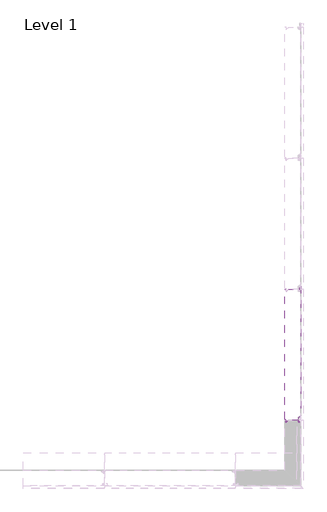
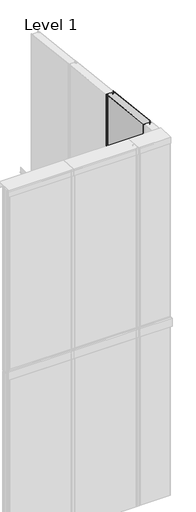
# One storey, part 6 of 12: 1 plate.
"""IFC4 building model written with IfcOpenShell, lengths in millimetres."""

from ifc_helpers import new_model, si_unit, frame, origin, place, context, project, spatial, polyline, circle_curve, ellipse_curve, element, save
from ifc_brep_helpers import plane_surface, cylinder_surface, revolved_surface, advanced_brep

model = new_model("IFC4")

# Units and contexts
model_context = context("Model", 3, world=origin())
ifc_project = project(units=[si_unit("LENGTHUNIT", "METRE", prefix="MILLI")], contexts=[model_context])

# Site, building, storey
site = spatial("IfcSite", under=ifc_project)
building = spatial("IfcBuilding", under=site)
storey = spatial("IfcBuildingStorey", under=building, Name="Level 1", Elevation=0.0)

# Plate
placement = place(None, origin())
element("IfcPlate", 1, ObjectType="TR_C_V_FHL_Panel : 120/RAL9006/RAL9002", at=placement, inside=storey, context=model_context, shape_type="AdvancedBrep", body=[
    advanced_brep(
    [(-3994.9155057, 5494.7075287, 3000.0), (-3995.5197088, 5496.0971008, 3000.0), (-3997.4653075, 5497.9114009, 3000.0), (-3999.3155057, 5497.1069118, 3000.0), (-3999.3155057, 5464.7801836, 3000.0), (-3999.4952944, 5463.7058087, 3000.0), (-4001.8344941, 5456.9122794, 3000.0), (-4011.3488891, 5458.0805002, 3000.0), (-4012.2128026, 5467.9550766, 3000.0), (-4013.9063336, 5469.5069118, 3000.0), (-4014.9155057, 5469.5069118, 3000.0), (-4014.9155057, 5470.3069118, 3000.0), (-4013.9063336, 5470.3069118, 3000.0), (-4011.4158468, 5468.0248012, 3000.0), (-4010.5519334, 5458.1502248, 3000.0), (-4002.5909089, 5457.1727339, 3000.0), (-4000.2517092, 5463.9662632, 3000.0), (-4000.1155057, 5464.7801836, 3000.0), (-4000.1155057, 5497.1069118, 3000.0), (-3996.9197088, 5498.4964839, 3000.0), (-3994.9741101, 5496.6821837, 3000.0), (-3994.1155057, 5494.7075287, 3000.0), (-3994.1155057, 4506.1698321, 3000.0), (-3994.9063173, 4504.2606438, 3000.0), (-3999.7297192, 4499.4372419, 3000.0), (-4000.3155057, 4498.0230283, 3000.0), (-4000.3155057, 4495.2069118, 3000.0), (-4003.0155057, 4492.5069118, 3000.0), (-4008.9155057, 4492.5069118, 3000.0), (-4010.9155057, 4490.5069118, 3000.0), (-4010.9155057, 4471.4069118, 3000.0), (-4009.8237435, 4458.9280134, 3000.0), (-4003.610261, 4458.1650937, 3000.0), (-4003.3006468, 4459.0642787, 3000.0), (-4002.544232, 4458.8038241, 3000.0), (-4002.8538462, 4457.9046392, 3000.0), (-4010.6206993, 4458.8582889, 3000.0), (-4011.7155057, 4471.3719831, 3000.0), (-4011.7155057, 4490.5069118, 3000.0), (-4008.9155057, 4493.3069118, 3000.0), (-4003.0155057, 4493.3069118, 3000.0), (-4001.1155057, 4495.2069118, 3000.0), (-4001.1155057, 4498.0230283, 3000.0), (-4000.2954046, 4500.0029273, 3000.0), (-3995.4720028, 4504.8263292, 3000.0), (-3994.9155057, 4506.1698321, 3000.0), (-3994.1155057, 5494.7075287, 5816.6162074), (-3994.1155057, 4506.1698321, 5931.5624512), (-3994.9155057, 4506.1698321, 5931.5624512), (-3994.9155057, 5494.7075287, 5816.6162074), (-3995.4720028, 4504.8263292, 5931.7186724), (-4000.2954046, 4500.0029273, 5932.2795331), (-4001.1155057, 4498.0230283, 5932.5097539), (-4001.1155057, 4495.2069118, 5932.8372093), (-4003.0155057, 4493.3069118, 5933.0581396), (-4008.9155057, 4493.3069118, 5933.0581396), (-4011.7155057, 4490.5069118, 5933.383721), (-4011.7155057, 4471.3719831, 5935.6087127), (-4010.6206993, 4458.8582889, 5937.0637934), (-4002.8538462, 4457.9046392, 5937.1746829), (-4002.544232, 4458.8038241, 5937.0701265), (-4003.3006468, 4459.0642787, 5937.0398411), (-4003.610261, 4458.1650937, 5937.1443975), (-4009.8237435, 4458.9280134, 5937.0556859), (-4010.9155057, 4471.4069118, 5935.6046512), (-4010.9155057, 4490.5069118, 5933.383721), (-4008.9155057, 4492.5069118, 5933.1511628), (-4003.0155057, 4492.5069118, 5933.1511628), (-4000.3155057, 4495.2069118, 5932.8372093), (-4000.3155057, 4498.0230283, 5932.5097539), (-3999.7297192, 4499.4372419, 5932.3453105), (-3994.9063173, 4504.2606438, 5931.7844498), (-3994.9741101, 5496.6821837, 5816.3865963), (-3996.9197088, 5498.4964839, 5816.1756312), (-4000.1155057, 5497.1069118, 5816.3372093), (-4000.1155057, 5464.7801836, 5820.0961312), (-4000.2517092, 5463.9662632, 5820.1907731), (-4002.5909089, 5457.1727339, 5820.9807184), (-4010.5519334, 5458.1502248, 5820.8670567), (-4011.4158468, 5468.0248012, 5819.7188501), (-4013.9063336, 5470.3069118, 5819.4534884), (-4014.9155057, 5470.3069118, 5819.4534884), (-4014.9155057, 5469.5069118, 5819.5465117), (-4013.9063336, 5469.5069118, 5819.5465117), (-4012.2128026, 5467.9550766, 5819.7269576), (-4011.3488891, 5458.0805002, 5820.8751642), (-4001.8344941, 5456.9122794, 5821.0110038), (-3999.4952944, 5463.7058087, 5820.2210585), (-3999.3155057, 5464.7801836, 5820.0961312), (-3999.3155057, 5497.1069118, 5816.3372093), (-3997.4653075, 5497.9114009, 5816.2436641), (-3995.5197088, 5496.0971008, 5816.4546292)],
    [
        (0, 1, circle_curve(frame((-3996.8155057, 5494.7075287, 3000.0), z_axis=(0.0, 0.0, 1.0), x_axis=(0.0, -1.0, 0.0)), 1.9)),
        (1, 2),
        (2, 3, circle_curve(frame((-3998.2155057, 5497.1069118, 3000.0), z_axis=(0.0, 0.0, 1.0), x_axis=(0.0, -1.0, 0.0)), 1.1)),
        (3, 4),
        (4, 5, circle_curve(frame((-4002.6155057, 5464.7801836, 3000.0), z_axis=(0.0, 0.0, -1.0), x_axis=(0.0, -1.0, 0.0)), 3.3)),
        (5, 6),
        (6, 7, circle_curve(frame((-4006.4675351, 5458.5075634, 3000.0), z_axis=(0.0, 0.0, -1.0), x_axis=(0.0, -1.0, 0.0)), 4.9)),
        (7, 8),
        (8, 9, circle_curve(frame((-4013.9063336, 5467.8069118, 3000.0), z_axis=(0.0, 0.0, 1.0), x_axis=(0.0, -1.0, 0.0)), 1.7)),
        (9, 10),
        (10, 11),
        (11, 12),
        (12, 13, circle_curve(frame((-4013.9063336, 5467.8069118, 3000.0), z_axis=(0.0, 0.0, -1.0), x_axis=(0.0, -1.0, 0.0)), 2.5)),
        (13, 14),
        (14, 15, circle_curve(frame((-4006.4675351, 5458.5075634, 3000.0), z_axis=(0.0, 0.0, 1.0), x_axis=(0.0, -1.0, 0.0)), 4.1)),
        (15, 16),
        (16, 17, circle_curve(frame((-4002.6155057, 5464.7801836, 3000.0), z_axis=(0.0, 0.0, 1.0), x_axis=(0.0, -1.0, 0.0)), 2.5)),
        (17, 18),
        (18, 19, circle_curve(frame((-3998.2155057, 5497.1069118, 3000.0), z_axis=(0.0, 0.0, -1.0), x_axis=(0.0, -1.0, 0.0)), 1.9)),
        (19, 20),
        (20, 21, circle_curve(frame((-3996.8155057, 5494.7075287, 3000.0), z_axis=(0.0, 0.0, -1.0), x_axis=(0.0, -1.0, 0.0)), 2.7)),
        (21, 22),
        (22, 23, circle_curve(frame((-3996.8155057, 4506.1698321, 3000.0), z_axis=(0.0, 0.0, -1.0), x_axis=(0.0, -1.0, 0.0)), 2.7)),
        (23, 24),
        (24, 25, circle_curve(frame((-3998.3155057, 4498.0230283, 3000.0), z_axis=(0.0, 0.0, 1.0), x_axis=(0.0, -1.0, 0.0)), 2.0)),
        (25, 26),
        (26, 27, circle_curve(frame((-4003.0155057, 4495.2069118, 3000.0), z_axis=(0.0, 0.0, -1.0), x_axis=(0.0, -1.0, 0.0)), 2.7)),
        (27, 28),
        (28, 29, circle_curve(frame((-4008.9155057, 4490.5069118, 3000.0), z_axis=(0.0, 0.0, 1.0), x_axis=(0.0, -1.0, 0.0)), 2.0)),
        (29, 30),
        (30, 31),
        (31, 32, circle_curve(frame((-4006.6359205, 4459.2069118, 3000.0), z_axis=(0.0, 0.0, 1.0), x_axis=(0.0, -1.0, 0.0)), 3.2)),
        (32, 33),
        (33, 34),
        (34, 35),
        (35, 36, circle_curve(frame((-4006.6359205, 4459.2069118, 3000.0), z_axis=(0.0, 0.0, -1.0), x_axis=(0.0, -1.0, 0.0)), 4.0)),
        (36, 37),
        (37, 38),
        (38, 39, circle_curve(frame((-4008.9155057, 4490.5069118, 3000.0), z_axis=(0.0, 0.0, -1.0), x_axis=(0.0, -1.0, 0.0)), 2.8)),
        (39, 40),
        (40, 41, circle_curve(frame((-4003.0155057, 4495.2069118, 3000.0), z_axis=(0.0, 0.0, 1.0), x_axis=(0.0, -1.0, 0.0)), 1.9)),
        (41, 42),
        (42, 43, circle_curve(frame((-3998.3155057, 4498.0230283, 3000.0), z_axis=(0.0, 0.0, -1.0), x_axis=(0.0, -1.0, 0.0)), 2.8)),
        (43, 44),
        (44, 45, circle_curve(frame((-3996.8155057, 4506.1698321, 3000.0), z_axis=(0.0, 0.0, 1.0), x_axis=(0.0, -1.0, 0.0)), 1.9)),
        (45, 0),
        (21, 46),
        (46, 47),
        (47, 22),
        (45, 48),
        (48, 49),
        (49, 0),
        (44, 50),
        (50, 48, ellipse_curve(frame((-3996.8155057, 4506.1698321, 5931.5624512), z_axis=(0.0, 0.1155008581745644, 0.9933073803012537), x_axis=(0.0, 0.9933073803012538, -0.11550085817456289)), 1.9128017, 1.9)),
        (43, 51),
        (51, 50),
        (42, 52),
        (52, 51, ellipse_curve(frame((-3998.3155057, 4498.0230283, 5932.5097539), z_axis=(0.0, -0.1155008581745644, -0.9933073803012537), x_axis=(0.0, -0.9933073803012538, 0.11550085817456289)), 2.8188656, 2.8)),
        (41, 53),
        (53, 52),
        (40, 54),
        (54, 53, ellipse_curve(frame((-4003.0155057, 4495.2069118, 5932.8372093), z_axis=(0.0, 0.1155008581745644, 0.9933073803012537), x_axis=(0.0, 0.9933073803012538, -0.11550085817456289)), 1.9128017, 1.9)),
        (39, 55),
        (55, 54),
        (38, 56),
        (56, 55, ellipse_curve(frame((-4008.9155057, 4490.5069118, 5933.383721), z_axis=(0.0, -0.1155008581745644, -0.9933073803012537), x_axis=(0.0, -0.9933073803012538, 0.11550085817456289)), 2.8188656, 2.8)),
        (37, 57),
        (57, 56),
        (36, 58),
        (58, 57),
        (35, 59),
        (59, 58, ellipse_curve(frame((-4006.6359205, 4459.2069118, 5937.0232558), z_axis=(0.0, -0.1155008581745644, -0.9933073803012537), x_axis=(0.0, -0.9933073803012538, 0.11550085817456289)), 4.0269509, 4.0)),
        (34, 60),
        (60, 59),
        (33, 61),
        (61, 60),
        (32, 62),
        (62, 61),
        (31, 63),
        (63, 62, ellipse_curve(frame((-4006.6359205, 4459.2069118, 5937.0232558), z_axis=(0.0, 0.1155008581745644, 0.9933073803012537), x_axis=(0.0, 0.9933073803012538, -0.11550085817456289)), 3.2215607, 3.2)),
        (30, 64),
        (64, 63),
        (29, 65),
        (65, 64),
        (28, 66),
        (66, 65, ellipse_curve(frame((-4008.9155057, 4490.5069118, 5933.383721), z_axis=(0.0, 0.1155008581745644, 0.9933073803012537), x_axis=(0.0, 0.9933073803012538, -0.11550085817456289)), 2.0134754, 2.0)),
        (27, 67),
        (67, 66),
        (26, 68),
        (68, 67, ellipse_curve(frame((-4003.0155057, 4495.2069118, 5932.8372093), z_axis=(0.0, -0.1155008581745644, -0.9933073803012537), x_axis=(0.0, -0.9933073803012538, 0.11550085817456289)), 2.7181918, 2.7)),
        (25, 69),
        (69, 68),
        (24, 70),
        (70, 69, ellipse_curve(frame((-3998.3155057, 4498.0230283, 5932.5097539), z_axis=(0.0, 0.1155008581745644, 0.9933073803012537), x_axis=(0.0, 0.9933073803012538, -0.11550085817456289)), 2.0134754, 2.0)),
        (23, 71),
        (71, 70),
        (47, 71, ellipse_curve(frame((-3996.8155057, 4506.1698321, 5931.5624512), z_axis=(0.0, -0.1155008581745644, -0.9933073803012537), x_axis=(0.0, -0.9933073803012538, 0.11550085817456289)), 2.7181918, 2.7)),
        (20, 72),
        (72, 46, ellipse_curve(frame((-3996.8155057, 5494.7075287, 5816.6162074), z_axis=(0.0, -0.1155008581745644, -0.9933073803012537), x_axis=(0.0, -0.9933073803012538, 0.11550085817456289)), 2.7181918, 2.7)),
        (19, 73),
        (73, 72),
        (18, 74),
        (74, 73, ellipse_curve(frame((-3998.2155057, 5497.1069118, 5816.3372093), z_axis=(0.0, -0.1155008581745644, -0.9933073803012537), x_axis=(0.0, -0.9933073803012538, 0.11550085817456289)), 1.9128017, 1.9)),
        (17, 75),
        (75, 74),
        (16, 76),
        (76, 75, ellipse_curve(frame((-4002.6155057, 5464.7801836, 5820.0961312), z_axis=(0.0, 0.1155008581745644, 0.9933073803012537), x_axis=(0.0, 0.9933073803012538, -0.11550085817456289)), 2.5168443, 2.5)),
        (15, 77),
        (77, 76),
        (14, 78),
        (78, 77, ellipse_curve(frame((-4006.4675351, 5458.5075634, 5820.8255057), z_axis=(0.0, 0.1155008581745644, 0.9933073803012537), x_axis=(0.0, 0.9933073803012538, -0.11550085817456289)), 4.1276246, 4.1)),
        (13, 79),
        (79, 78),
        (12, 80),
        (80, 79, ellipse_curve(frame((-4013.9063336, 5467.8069118, 5819.7441861), z_axis=(0.0, -0.1155008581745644, -0.9933073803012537), x_axis=(0.0, -0.9933073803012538, 0.11550085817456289)), 2.5168443, 2.5)),
        (11, 81),
        (81, 80),
        (10, 82),
        (82, 81),
        (9, 83),
        (83, 82),
        (8, 84),
        (84, 83, ellipse_curve(frame((-4013.9063336, 5467.8069118, 5819.7441861), z_axis=(0.0, 0.1155008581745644, 0.9933073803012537), x_axis=(0.0, 0.9933073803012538, -0.11550085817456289)), 1.7114541, 1.7)),
        (7, 85),
        (85, 84),
        (6, 86),
        (86, 85, ellipse_curve(frame((-4006.4675351, 5458.5075634, 5820.8255057), z_axis=(0.0, -0.1155008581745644, -0.9933073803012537), x_axis=(0.0, -0.9933073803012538, 0.11550085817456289)), 4.9330148, 4.9)),
        (5, 87),
        (87, 86),
        (4, 88),
        (88, 87, ellipse_curve(frame((-4002.6155057, 5464.7801836, 5820.0961312), z_axis=(0.0, -0.1155008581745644, -0.9933073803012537), x_axis=(0.0, -0.9933073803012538, 0.11550085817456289)), 3.3222345, 3.3)),
        (3, 89),
        (89, 88),
        (2, 90),
        (90, 89, ellipse_curve(frame((-3998.2155057, 5497.1069118, 5816.3372093), z_axis=(0.0, 0.1155008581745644, 0.9933073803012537), x_axis=(0.0, 0.9933073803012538, -0.11550085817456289)), 1.1074115, 1.1)),
        (1, 91),
        (91, 90),
        (49, 91, ellipse_curve(frame((-3996.8155057, 5494.7075287, 5816.6162074), z_axis=(0.0, 0.1155008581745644, 0.9933073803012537), x_axis=(0.0, 0.9933073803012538, -0.11550085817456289)), 1.9128017, 1.9)),
    ],
    [
        plane_surface(frame((-3994.9155057, 4485.2850853, 3000.0), z_axis=(0.0, 0.0, -1.0), x_axis=(0.0, 1.0, 0.0))),
        plane_surface(frame((-3994.1155057, 4506.1698321, 5980.0), z_axis=(1.0, 0.0, 0.0), x_axis=(0.0, 0.0, -1.0))),
        plane_surface(frame((-3994.9155057, 5494.7075287, 5980.0), z_axis=(-1.0, 0.0, 0.0), x_axis=(0.0, 0.0, -1.0))),
        revolved_surface(polyline([(-3996.8155057, 4504.269832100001, 3000.0), (-3996.8155057, 4504.269832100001, 5931.783381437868)]), (-3996.8155057, 4506.1698321, 3000.0), (0.0, 0.0, -1.0)),
        plane_surface(frame((-3995.4720028, 4504.8263292, 5980.0), z_axis=(-0.7071067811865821, 0.7071067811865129, 0.0), x_axis=(0.0, 0.0, -1.0))),
        cylinder_surface(frame((-3998.3155057, 4498.0230283, 3000.0), z_axis=(0.0, 0.0, 1.0), x_axis=(0.0, -1.0, 0.0)), 2.8),
        plane_surface(frame((-4001.1155057, 4498.0230283, 5980.0), z_axis=(-1.0, 0.0, 0.0), x_axis=(0.0, 0.0, -1.0))),
        revolved_surface(polyline([(-4003.0155057, 4493.3069118, 3000.0), (-4003.0155057, 4493.3069118, 5933.0581396)]), (-4003.0155057, 4495.2069118, 3000.0), (0.0, 0.0, -1.0)),
        plane_surface(frame((-4003.0155057, 4493.3069118, 5980.0), z_axis=(0.0, 1.0, 0.0), x_axis=(0.0, 0.0, -1.0))),
        cylinder_surface(frame((-4008.9155057, 4490.5069118, 3000.0), z_axis=(0.0, 0.0, 1.0), x_axis=(0.0, -1.0, 0.0)), 2.8),
        plane_surface(frame((-4011.7155057, 4490.5069118, 5980.0), z_axis=(-1.0, 0.0, 0.0), x_axis=(0.0, 0.0, -1.0))),
        plane_surface(frame((-4011.7155057, 4471.3719831, 5980.0), z_axis=(-0.9961946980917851, -0.08715574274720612, 0.0), x_axis=(0.0, 0.0, -1.0))),
        cylinder_surface(frame((-4006.6359205, 4459.2069118, 3000.0), z_axis=(0.0, 0.0, 1.0), x_axis=(0.0, -1.0, 0.0)), 4.0),
        plane_surface(frame((-4002.8538462, 4457.9046392, 5980.0), z_axis=(0.9455185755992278, -0.32556815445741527, 0.0), x_axis=(0.0, 0.0, -1.0))),
        plane_surface(frame((-4002.544232, 4458.8038241, 5980.0), z_axis=(0.325568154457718, 0.9455185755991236, 0.0), x_axis=(0.0, 0.0, -1.0))),
        plane_surface(frame((-4003.3006468, 4459.0642787, 5980.0), z_axis=(-0.9455185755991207, 0.32556815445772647, 0.0), x_axis=(0.0, 0.0, -1.0))),
        revolved_surface(polyline([(-4006.6359205, 4456.0069118, 3000.0), (-4006.6359205, 4456.0069118, 5937.395348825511)]), (-4006.6359205, 4459.2069118, 3000.0), (0.0, 0.0, -1.0)),
        plane_surface(frame((-4009.8237435, 4458.9280134, 5980.0), z_axis=(0.9961946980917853, 0.08715574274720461, 0.0), x_axis=(0.0, 0.0, -1.0))),
        plane_surface(frame((-4010.9155057, 4471.4069118, 5980.0), z_axis=(1.0, 0.0, 0.0), x_axis=(0.0, 0.0, -1.0))),
        revolved_surface(polyline([(-4008.9155057, 4488.5069118, 3000.0), (-4008.9155057, 4488.5069118, 5933.616279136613)]), (-4008.9155057, 4490.5069118, 3000.0), (0.0, 0.0, -1.0)),
        plane_surface(frame((-4008.9155057, 4492.5069118, 5980.0), z_axis=(0.0, -1.0, 0.0), x_axis=(0.0, 0.0, -1.0))),
        cylinder_surface(frame((-4003.0155057, 4495.2069118, 3000.0), z_axis=(0.0, 0.0, 1.0), x_axis=(0.0, -1.0, 0.0)), 2.7),
        plane_surface(frame((-4000.3155057, 4495.2069118, 5980.0), z_axis=(1.0, 0.0, 0.0), x_axis=(0.0, 0.0, -1.0))),
        revolved_surface(polyline([(-3998.3155057, 4496.0230283, 3000.0), (-3998.3155057, 4496.0230283, 5932.742312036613)]), (-3998.3155057, 4498.0230283, 3000.0), (0.0, 0.0, -1.0)),
        plane_surface(frame((-3999.7297192, 4499.4372419, 5980.0), z_axis=(0.7071067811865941, -0.707106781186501, 0.0), x_axis=(0.0, 0.0, -1.0))),
        cylinder_surface(frame((-3996.8155057, 4506.1698321, 3000.0), z_axis=(0.0, 0.0, 1.0), x_axis=(0.0, -1.0, 0.0)), 2.7),
        cylinder_surface(frame((-3996.8155057, 5494.7075287, 3000.0), z_axis=(0.0, 0.0, 1.0), x_axis=(0.0, -1.0, 0.0)), 2.7),
        plane_surface(frame((-3994.9741101, 5496.6821837, 5980.0), z_axis=(0.6819983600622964, 0.7313537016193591, 0.0), x_axis=(0.0, 0.0, -1.0))),
        cylinder_surface(frame((-3998.2155057, 5497.1069118, 3000.0), z_axis=(0.0, 0.0, 1.0), x_axis=(0.0, -1.0, 0.0)), 1.9),
        plane_surface(frame((-4000.1155057, 5497.1069118, 5980.0), z_axis=(-1.0, 0.0, 0.0), x_axis=(0.0, 0.0, -1.0))),
        revolved_surface(polyline([(-4002.6155057, 5462.2801836, 3000.0), (-4002.6155057, 5462.2801836, 5820.386828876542)]), (-4002.6155057, 5464.7801836, 3000.0), (0.0, 0.0, -1.0)),
        plane_surface(frame((-4000.2517092, 5463.9662632, 5980.0), z_axis=(-0.9455185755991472, 0.3255681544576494, 0.0), x_axis=(0.0, 0.0, -1.0))),
        revolved_surface(polyline([(-4006.4675351, 5454.4075634, 3000.0), (-4006.4675351, 5454.4075634, 5821.302249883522)]), (-4006.4675351, 5458.5075634, 3000.0), (0.0, 0.0, -1.0)),
        plane_surface(frame((-4010.5519334, 5458.1502248, 5980.0), z_axis=(0.9961946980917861, 0.08715574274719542, 0.0), x_axis=(0.0, 0.0, -1.0))),
        cylinder_surface(frame((-4013.9063336, 5467.8069118, 3000.0), z_axis=(0.0, 0.0, 1.0), x_axis=(0.0, -1.0, 0.0)), 2.5),
        plane_surface(frame((-4013.9063336, 5470.3069118, 5980.0), z_axis=(0.0, 1.0, 0.0), x_axis=(0.0, 0.0, -1.0))),
        plane_surface(frame((-4014.9155057, 5470.3069118, 5980.0), z_axis=(-1.0, 0.0, 0.0), x_axis=(0.0, 0.0, -1.0))),
        plane_surface(frame((-4014.9155057, 5469.5069118, 5980.0), z_axis=(0.0, -1.0, 0.0), x_axis=(0.0, 0.0, -1.0))),
        revolved_surface(polyline([(-4013.9063336, 5466.1069118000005, 3000.0), (-4013.9063336, 5466.1069118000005, 5819.941860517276)]), (-4013.9063336, 5467.8069118, 3000.0), (0.0, 0.0, -1.0)),
        plane_surface(frame((-4012.2128026, 5467.9550766, 5980.0), z_axis=(-0.9961946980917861, -0.08715574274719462, 0.0), x_axis=(0.0, 0.0, -1.0))),
        cylinder_surface(frame((-4006.4675351, 5458.5075634, 3000.0), z_axis=(0.0, 0.0, 1.0), x_axis=(0.0, -1.0, 0.0)), 4.9),
        plane_surface(frame((-4001.8344941, 5456.9122794, 5980.0), z_axis=(0.9455185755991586, -0.3255681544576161, 0.0), x_axis=(0.0, 0.0, -1.0))),
        cylinder_surface(frame((-4002.6155057, 5464.7801836, 3000.0), z_axis=(0.0, 0.0, 1.0), x_axis=(0.0, -1.0, 0.0)), 3.3),
        plane_surface(frame((-3999.3155057, 5464.7801836, 5980.0), z_axis=(1.0, 0.0, 0.0), x_axis=(0.0, 0.0, -1.0))),
        revolved_surface(polyline([(-3998.2155057, 5496.006911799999, 3000.0), (-3998.2155057, 5496.006911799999, 5816.465116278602)]), (-3998.2155057, 5497.1069118, 3000.0), (0.0, 0.0, -1.0)),
        plane_surface(frame((-3997.4653075, 5497.9114009, 5980.0), z_axis=(-0.6819983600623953, -0.7313537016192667, 0.0), x_axis=(0.0, 0.0, -1.0))),
        revolved_surface(polyline([(-3996.8155057, 5492.8075287, 3000.0), (-3996.8155057, 5492.8075287, 5816.837137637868)]), (-3996.8155057, 5494.7075287, 3000.0), (0.0, 0.0, -1.0)),
        plane_surface(frame((-3994.1155057, 6239.6069121, 5730.0), z_axis=(0.0, 0.1155008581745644, 0.9933073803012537), x_axis=(0.0, -0.9933073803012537, 0.1155008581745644))),
    ],
    [
        (0, [[1, 2, 3, 4, 5, 6, 7, 8, 9, 10, 11, 12, 13, 14, 15, 16, 17, 18, 19, 20, 21, 22, 23, 24, 25, 26, 27, 28, 29, 30, 31, 32, 33, 34, 35, 36, 37, 38, 39, 40, 41, 42, 43, 44, 45, 46]]),
        (1, [[-22, 47, 48, 49]]),
        (2, [[-46, 50, 51, 52]]),
        (3, [[-45, 53, 54, -50]]),
        (4, [[-44, 55, 56, -53]]),
        (5, [[-43, 57, 58, -55]]),
        (6, [[-42, 59, 60, -57]]),
        (7, [[-41, 61, 62, -59]]),
        (8, [[-40, 63, 64, -61]]),
        (9, [[-39, 65, 66, -63]]),
        (10, [[-38, 67, 68, -65]]),
        (11, [[-37, 69, 70, -67]]),
        (12, [[-36, 71, 72, -69]]),
        (13, [[-35, 73, 74, -71]]),
        (14, [[-34, 75, 76, -73]]),
        (15, [[-33, 77, 78, -75]]),
        (16, [[-32, 79, 80, -77]]),
        (17, [[-31, 81, 82, -79]]),
        (18, [[-30, 83, 84, -81]]),
        (19, [[-29, 85, 86, -83]]),
        (20, [[-28, 87, 88, -85]]),
        (21, [[-27, 89, 90, -87]]),
        (22, [[-26, 91, 92, -89]]),
        (23, [[-25, 93, 94, -91]]),
        (24, [[-24, 95, 96, -93]]),
        (25, [[-23, -49, 97, -95]]),
        (26, [[-21, 98, 99, -47]]),
        (27, [[-20, 100, 101, -98]]),
        (28, [[-19, 102, 103, -100]]),
        (29, [[-18, 104, 105, -102]]),
        (30, [[-17, 106, 107, -104]]),
        (31, [[-16, 108, 109, -106]]),
        (32, [[-15, 110, 111, -108]]),
        (33, [[-14, 112, 113, -110]]),
        (34, [[-13, 114, 115, -112]]),
        (35, [[-12, 116, 117, -114]]),
        (36, [[-11, 118, 119, -116]]),
        (37, [[-10, 120, 121, -118]]),
        (38, [[-9, 122, 123, -120]]),
        (39, [[-8, 124, 125, -122]]),
        (40, [[-7, 126, 127, -124]]),
        (41, [[-6, 128, 129, -126]]),
        (42, [[-5, 130, 131, -128]]),
        (43, [[-4, 132, 133, -130]]),
        (44, [[-3, 134, 135, -132]]),
        (45, [[-2, 136, 137, -134]]),
        (46, [[-1, -52, 138, -136]]),
        (47, [[-48, -99, -101, -103, -105, -107, -109, -111, -113, -115, -117, -119, -121, -123, -125, -127, -129, -131, -133, -135, -137, -138, -51, -54, -56, -58, -60, -62, -64, -66, -68, -70, -72, -74, -76, -78, -80, -82, -84, -86, -88, -90, -92, -94, -96, -97]]),
    ],
),
    advanced_brep(
    [(-4113.3155057, 5449.7069118, 3000.0), (-4104.6655057, 5449.7069118, 3000.0), (-4100.4800727, 5453.2189071, 3000.0), (-4099.4132474, 5459.2691739, 3000.0), (-4096.5080645, 5461.7069118, 3000.0), (-4088.9755057, 5461.7069118, 3000.0), (-4088.9755057, 5469.6069118, 3000.0), (-4014.9155057, 5469.6069118, 3000.0), (-4013.9063336, 5469.5069118, 3000.0), (-4012.2128026, 5467.9550766, 3000.0), (-4011.3488891, 5458.0805002, 3000.0), (-4006.4675351, 5453.6075634, 3000.0), (-3994.9155057, 5453.6075634, 3000.0), (-3994.9155057, 4506.1698321, 3000.0), (-3995.4720028, 4504.8263292, 3000.0), (-4000.2954046, 4500.0029273, 3000.0), (-4001.1155057, 4498.0230283, 3000.0), (-4001.1155057, 4495.2069118, 3000.0), (-4003.0155057, 4493.3069118, 3000.0), (-4008.9155057, 4493.3069118, 3000.0), (-4011.7155057, 4490.5069118, 3000.0), (-4011.7155057, 4471.3719831, 3000.0), (-4011.5610819, 4469.6069118, 3000.0), (-4107.3155057, 4469.6069118, 3000.0), (-4107.3155057, 4471.5069118, 3000.0), (-4108.2820533, 4473.8403642, 3000.0), (-4112.6711406, 4478.2294515, 3000.0), (-4113.3155057, 4479.7850864, 3000.0), (-4113.3155057, 4479.7850864, 5934.6304449), (-4113.3155057, 5449.7069118, 5821.8488372), (-4112.6711406, 4478.2294515, 5934.8113326), (-4108.2820533, 4473.8403642, 5935.3216916), (-4107.3155057, 4471.5069118, 5935.5930233), (-4107.3155057, 4469.6069118, 5935.8139535), (-4011.5610819, 4469.6069118, 5935.8139535), (-4011.7155057, 4471.3719831, 5935.6087127), (-4011.7155057, 4490.5069118, 5933.383721), (-4008.9155057, 4493.3069118, 5933.0581396), (-4003.0155057, 4493.3069118, 5933.0581396), (-4001.1155057, 4495.2069118, 5932.8372093), (-4001.1155057, 4498.0230283, 5932.5097539), (-4000.2954046, 4500.0029273, 5932.2795331), (-3995.4720028, 4504.8263292, 5931.7186724), (-3994.9155057, 4506.1698321, 5931.5624512), (-3994.9155057, 5453.6075634, 5821.3952731), (-4006.4675351, 5453.6075634, 5821.3952731), (-4011.3488891, 5458.0805002, 5820.8751642), (-4012.2128026, 5467.9550766, 5819.7269576), (-4013.9063336, 5469.5069118, 5819.5465117), (-4014.9155057, 5469.6069118, 5819.5348838), (-4088.9755057, 5469.6069118, 5819.5348838), (-4088.9755057, 5461.7069118, 5820.4534884), (-4096.5080645, 5461.7069118, 5820.4534884), (-4099.4132474, 5459.2691739, 5820.7369463), (-4100.4800727, 5453.2189071, 5821.4404657), (-4104.6655057, 5449.7069118, 5821.8488372)],
    [
        (0, 1),
        (1, 2, circle_curve(frame((-4104.6655057, 5453.9569118, 3000.0), z_axis=(0.0, 0.0, 1.0), x_axis=(0.0, -1.0, 0.0)), 4.25)),
        (2, 3),
        (3, 4, circle_curve(frame((-4096.5080645, 5458.7569118, 3000.0), z_axis=(0.0, 0.0, -1.0), x_axis=(0.0, -1.0, 0.0)), 2.95)),
        (4, 5),
        (5, 6),
        (6, 7),
        (7, 8),
        (8, 9, circle_curve(frame((-4013.9063336, 5467.8069118, 3000.0), z_axis=(0.0, 0.0, -1.0), x_axis=(0.0, -1.0, 0.0)), 1.7)),
        (9, 10),
        (10, 11, circle_curve(frame((-4006.4675351, 5458.5075634, 3000.0), z_axis=(0.0, 0.0, 1.0), x_axis=(0.0, -1.0, 0.0)), 4.9)),
        (11, 12),
        (12, 13),
        (13, 14, circle_curve(frame((-3996.8155057, 4506.1698321, 3000.0), z_axis=(0.0, 0.0, -1.0), x_axis=(0.0, -1.0, 0.0)), 1.9)),
        (14, 15),
        (15, 16, circle_curve(frame((-3998.3155057, 4498.0230283, 3000.0), z_axis=(0.0, 0.0, 1.0), x_axis=(0.0, -1.0, 0.0)), 2.8)),
        (16, 17),
        (17, 18, circle_curve(frame((-4003.0155057, 4495.2069118, 3000.0), z_axis=(0.0, 0.0, -1.0), x_axis=(0.0, -1.0, 0.0)), 1.9)),
        (18, 19),
        (19, 20, circle_curve(frame((-4008.9155057, 4490.5069118, 3000.0), z_axis=(0.0, 0.0, 1.0), x_axis=(0.0, -1.0, 0.0)), 2.8)),
        (20, 21),
        (21, 22),
        (22, 23),
        (23, 24),
        (24, 25, circle_curve(frame((-4110.6155057, 4471.5069118, 3000.0), z_axis=(0.0, 0.0, 1.0), x_axis=(0.0, -1.0, 0.0)), 3.3)),
        (25, 26),
        (26, 27, circle_curve(frame((-4111.1155057, 4479.7850864, 3000.0), z_axis=(0.0, 0.0, -1.0), x_axis=(0.0, -1.0, 0.0)), 2.2)),
        (27, 0),
        (27, 28),
        (28, 29),
        (29, 0),
        (26, 30),
        (30, 28, ellipse_curve(frame((-4111.1155057, 4479.7850864, 5934.6304449), z_axis=(0.0, -0.1155008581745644, -0.9933073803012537), x_axis=(0.0, -0.9933073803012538, 0.11550085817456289)), 2.214823, 2.2)),
        (25, 31),
        (31, 30),
        (24, 32),
        (32, 31, ellipse_curve(frame((-4110.6155057, 4471.5069118, 5935.5930233), z_axis=(0.0, 0.1155008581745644, 0.9933073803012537), x_axis=(0.0, 0.9933073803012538, -0.11550085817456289)), 3.3222345, 3.3)),
        (23, 33),
        (33, 32),
        (22, 34),
        (34, 33),
        (21, 35),
        (35, 34),
        (20, 36),
        (36, 35),
        (19, 37),
        (37, 36, ellipse_curve(frame((-4008.9155057, 4490.5069118, 5933.383721), z_axis=(0.0, 0.1155008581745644, 0.9933073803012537), x_axis=(0.0, 0.9933073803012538, -0.11550085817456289)), 2.8188656, 2.8)),
        (18, 38),
        (38, 37),
        (17, 39),
        (39, 38, ellipse_curve(frame((-4003.0155057, 4495.2069118, 5932.8372093), z_axis=(0.0, -0.1155008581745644, -0.9933073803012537), x_axis=(0.0, -0.9933073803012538, 0.11550085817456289)), 1.9128017, 1.9)),
        (16, 40),
        (40, 39),
        (15, 41),
        (41, 40, ellipse_curve(frame((-3998.3155057, 4498.0230283, 5932.5097539), z_axis=(0.0, 0.1155008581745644, 0.9933073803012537), x_axis=(0.0, 0.9933073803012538, -0.11550085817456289)), 2.8188656, 2.8)),
        (14, 42),
        (42, 41),
        (13, 43),
        (43, 42, ellipse_curve(frame((-3996.8155057, 4506.1698321, 5931.5624512), z_axis=(0.0, -0.1155008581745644, -0.9933073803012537), x_axis=(0.0, -0.9933073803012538, 0.11550085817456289)), 1.9128017, 1.9)),
        (12, 44),
        (44, 43),
        (11, 45),
        (45, 44),
        (10, 46),
        (46, 45, ellipse_curve(frame((-4006.4675351, 5458.5075634, 5820.8255057), z_axis=(0.0, 0.1155008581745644, 0.9933073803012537), x_axis=(0.0, 0.9933073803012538, -0.11550085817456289)), 4.9330148, 4.9)),
        (9, 47),
        (47, 46),
        (8, 48),
        (48, 47, ellipse_curve(frame((-4013.9063336, 5467.8069118, 5819.7441861), z_axis=(0.0, -0.1155008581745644, -0.9933073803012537), x_axis=(0.0, -0.9933073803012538, 0.11550085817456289)), 1.7114541, 1.7)),
        (7, 49),
        (49, 48),
        (6, 50),
        (50, 49),
        (5, 51),
        (51, 50),
        (4, 52),
        (52, 51),
        (3, 53),
        (53, 52, ellipse_curve(frame((-4096.5080645, 5458.7569118, 5820.7965117), z_axis=(0.0, -0.1155008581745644, -0.9933073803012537), x_axis=(0.0, -0.9933073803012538, 0.11550085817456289)), 2.9698763, 2.95)),
        (2, 54),
        (54, 53),
        (1, 55),
        (55, 54, ellipse_curve(frame((-4104.6655057, 5453.9569118, 5821.3546512), z_axis=(0.0, 0.1155008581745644, 0.9933073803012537), x_axis=(0.0, 0.9933073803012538, -0.11550085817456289)), 4.2786353, 4.25)),
        (29, 55),
    ],
    [
        plane_surface(frame((-4113.3155057, 4479.7850864, 3000.0), z_axis=(0.0, 0.0, -1.0), x_axis=(0.0, 1.0, 0.0))),
        plane_surface(frame((-4113.3155057, 5449.7069118, 5980.0), z_axis=(-1.0, 0.0, 0.0), x_axis=(0.0, 0.0, -1.0))),
        cylinder_surface(frame((-4111.1155057, 4479.7850864, 3000.0), z_axis=(0.0, 0.0, 1.0), x_axis=(0.0, -1.0, 0.0)), 2.2),
        plane_surface(frame((-4112.6711406, 4478.2294515, 5980.0), z_axis=(-0.7071067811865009, -0.7071067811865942, 0.0), x_axis=(0.0, 0.0, -1.0))),
        revolved_surface(polyline([(-4110.6155057, 4468.2069118, 3000.0), (-4110.6155057, 4468.2069118, 5935.976744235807)]), (-4110.6155057, 4471.5069118, 3000.0), (0.0, 0.0, -1.0)),
        plane_surface(frame((-4107.3155057, 4471.5069118, 5980.0), z_axis=(-1.0, 0.0, 0.0), x_axis=(0.0, 0.0, -1.0))),
        plane_surface(frame((-4107.3155057, 4469.6069118, 5980.0), z_axis=(0.0, -1.0, 0.0), x_axis=(0.0, 0.0, -1.0))),
        plane_surface(frame((-4011.5610819, 4469.6069118, 5980.0), z_axis=(0.9961946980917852, 0.08715574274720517, 0.0), x_axis=(0.0, 0.0, -1.0))),
        plane_surface(frame((-4011.7155057, 4471.3719831, 5980.0), z_axis=(1.0, 0.0, 0.0), x_axis=(0.0, 0.0, -1.0))),
        revolved_surface(polyline([(-4008.9155057, 4487.7069118, 3000.0), (-4008.9155057, 4487.7069118, 5933.709302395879)]), (-4008.9155057, 4490.5069118, 3000.0), (0.0, 0.0, -1.0)),
        plane_surface(frame((-4008.9155057, 4493.3069118, 5980.0), z_axis=(0.0, -1.0, 0.0), x_axis=(0.0, 0.0, -1.0))),
        cylinder_surface(frame((-4003.0155057, 4495.2069118, 3000.0), z_axis=(0.0, 0.0, 1.0), x_axis=(0.0, -1.0, 0.0)), 1.9),
        plane_surface(frame((-4001.1155057, 4495.2069118, 5980.0), z_axis=(1.0, 0.0, 0.0), x_axis=(0.0, 0.0, -1.0))),
        revolved_surface(polyline([(-3998.3155057, 4495.2230283, 3000.0), (-3998.3155057, 4495.2230283, 5932.835335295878)]), (-3998.3155057, 4498.0230283, 3000.0), (0.0, 0.0, -1.0)),
        plane_surface(frame((-4000.2954046, 4500.0029273, 5980.0), z_axis=(0.707106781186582, -0.7071067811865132, 0.0), x_axis=(0.0, 0.0, -1.0))),
        cylinder_surface(frame((-3996.8155057, 4506.1698321, 3000.0), z_axis=(0.0, 0.0, 1.0), x_axis=(0.0, -1.0, 0.0)), 1.9),
        plane_surface(frame((-3994.9155057, 4506.1698321, 5980.0), z_axis=(1.0, 0.0, 0.0), x_axis=(0.0, 0.0, -1.0))),
        plane_surface(frame((-3994.9155057, 5453.6075634, 5980.0), z_axis=(0.0, 1.0, 0.0), x_axis=(0.0, 0.0, -1.0))),
        revolved_surface(polyline([(-4006.4675351, 5453.607563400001, 3000.0), (-4006.4675351, 5453.607563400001, 5821.395273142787)]), (-4006.4675351, 5458.5075634, 3000.0), (0.0, 0.0, -1.0)),
        plane_surface(frame((-4011.3488891, 5458.0805002, 5980.0), z_axis=(0.9961946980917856, 0.08715574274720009, 0.0), x_axis=(0.0, 0.0, -1.0))),
        cylinder_surface(frame((-4013.9063336, 5467.8069118, 3000.0), z_axis=(0.0, 0.0, 1.0), x_axis=(0.0, -1.0, 0.0)), 1.7),
        plane_surface(frame((-4013.9063336, 5469.5069118, 5980.0), z_axis=(0.0986081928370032, 0.9951263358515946, 0.0), x_axis=(0.0, 0.0, -1.0))),
        plane_surface(frame((-4014.9155057, 5469.6069118, 5980.0), z_axis=(0.0, 1.0, 0.0), x_axis=(0.0, 0.0, -1.0))),
        plane_surface(frame((-4088.9755057, 5469.6069118, 5980.0), z_axis=(-1.0, 0.0, 0.0), x_axis=(0.0, 0.0, -1.0))),
        plane_surface(frame((-4088.9755057, 5461.7069118, 5980.0), z_axis=(0.0, 1.0, 0.0), x_axis=(0.0, 0.0, -1.0))),
        cylinder_surface(frame((-4096.5080645, 5458.7569118, 3000.0), z_axis=(0.0, 0.0, 1.0), x_axis=(0.0, -1.0, 0.0)), 2.95),
        plane_surface(frame((-4099.4132474, 5459.2691739, 5980.0), z_axis=(-0.984807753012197, 0.1736481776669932, 0.0), x_axis=(0.0, 0.0, -1.0))),
        revolved_surface(polyline([(-4104.6655057, 5449.7069118, 3000.0), (-4104.6655057, 5449.7069118, 5821.848837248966)]), (-4104.6655057, 5453.9569118, 3000.0), (0.0, 0.0, -1.0)),
        plane_surface(frame((-4104.6655057, 5449.7069118, 5980.0), z_axis=(0.0, 1.0, 0.0), x_axis=(0.0, 0.0, -1.0))),
        plane_surface(frame((-3994.1155057, 6239.6069121, 5730.0), z_axis=(0.0, 0.1155008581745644, 0.9933073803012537), x_axis=(0.0, -0.9933073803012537, 0.1155008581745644))),
    ],
    [
        (0, [[1, 2, 3, 4, 5, 6, 7, 8, 9, 10, 11, 12, 13, 14, 15, 16, 17, 18, 19, 20, 21, 22, 23, 24, 25, 26, 27, 28]]),
        (1, [[-28, 29, 30, 31]]),
        (2, [[-27, 32, 33, -29]]),
        (3, [[-26, 34, 35, -32]]),
        (4, [[-25, 36, 37, -34]]),
        (5, [[-24, 38, 39, -36]]),
        (6, [[-23, 40, 41, -38]]),
        (7, [[-22, 42, 43, -40]]),
        (8, [[-21, 44, 45, -42]]),
        (9, [[-20, 46, 47, -44]]),
        (10, [[-19, 48, 49, -46]]),
        (11, [[-18, 50, 51, -48]]),
        (12, [[-17, 52, 53, -50]]),
        (13, [[-16, 54, 55, -52]]),
        (14, [[-15, 56, 57, -54]]),
        (15, [[-14, 58, 59, -56]]),
        (16, [[-13, 60, 61, -58]]),
        (17, [[-12, 62, 63, -60]]),
        (18, [[-11, 64, 65, -62]]),
        (19, [[-10, 66, 67, -64]]),
        (20, [[-9, 68, 69, -66]]),
        (21, [[-8, 70, 71, -68]]),
        (22, [[-7, 72, 73, -70]]),
        (23, [[-6, 74, 75, -72]]),
        (24, [[-5, 76, 77, -74]]),
        (25, [[-4, 78, 79, -76]]),
        (26, [[-3, 80, 81, -78]]),
        (27, [[-2, 82, 83, -80]]),
        (28, [[-1, -31, 84, -82]]),
        (29, [[-30, -33, -35, -37, -39, -41, -43, -45, -47, -49, -51, -53, -55, -57, -59, -61, -63, -65, -67, -69, -71, -73, -75, -77, -79, -81, -83, -84]]),
    ],
),
    advanced_brep(
    [(-4093.1155057, 5462.5069118, 3000.0), (-4093.1155057, 5461.7069118, 3000.0), (-4096.5080645, 5461.7069118, 3000.0), (-4099.4132474, 5459.2691739, 3000.0), (-4100.4800727, 5453.2189071, 3000.0), (-4108.9155057, 5453.9569118, 3000.0), (-4108.9155057, 5471.5569118, 3000.0), (-4110.8786785, 5472.3700846, 3000.0), (-4112.7443639, 5470.5043992, 3000.0), (-4113.3155057, 5469.125541, 3000.0), (-4113.3155057, 4479.7850864, 3000.0), (-4112.6711406, 4478.2294515, 3000.0), (-4108.2820533, 4473.8403642, 3000.0), (-4107.3155057, 4471.5069118, 3000.0), (-4107.3155057, 4456.7569118, 3000.0), (-4102.4527267, 4456.3314738, 3000.0), (-4101.7094137, 4460.547011, 3000.0), (-4097.2285384, 4464.3069118, 3000.0), (-4093.1155057, 4464.3069118, 3000.0), (-4093.1155057, 4463.5069118, 3000.0), (-4097.2285384, 4463.5069118, 3000.0), (-4100.9215675, 4460.4080925, 3000.0), (-4101.6648805, 4456.1925552, 3000.0), (-4108.1155057, 4456.7569118, 3000.0), (-4108.1155057, 4471.5069118, 3000.0), (-4108.8477387, 4473.2746788, 3000.0), (-4113.236826, 4477.6637661, 3000.0), (-4114.1155057, 4479.7850864, 3000.0), (-4114.1155057, 5469.125541, 3000.0), (-4113.3100493, 5471.0700846, 3000.0), (-4111.4443639, 5472.93577, 3000.0), (-4108.1155057, 5471.5569118, 3000.0), (-4108.1155057, 5453.9569118, 3000.0), (-4101.2679189, 5453.3578256, 3000.0), (-4100.2010936, 5459.4080925, 3000.0), (-4096.5080645, 5462.5069118, 3000.0), (-4096.5080645, 5462.5069118, 5820.3604652), (-4093.1155057, 5462.5069118, 5820.3604652), (-4100.2010936, 5459.4080925, 5820.720793), (-4101.2679189, 5453.3578256, 5821.4243124), (-4108.1155057, 5453.9569118, 5821.3546512), (-4108.1155057, 5471.5569118, 5819.3081396), (-4111.4443639, 5472.93577, 5819.1478072), (-4113.3100493, 5471.0700846, 5819.3647474), (-4114.1155057, 5469.125541, 5819.5908571), (-4114.1155057, 4479.7850864, 5934.6304449), (-4113.236826, 4477.6637661, 5934.87711), (-4108.8477387, 4473.2746788, 5935.387469), (-4108.1155057, 4471.5069118, 5935.5930233), (-4108.1155057, 4456.7569118, 5937.3081396), (-4101.6648805, 4456.1925552, 5937.3737624), (-4100.9215675, 4460.4080925, 5936.8835837), (-4097.2285384, 4463.5069118, 5936.5232558), (-4093.1155057, 4463.5069118, 5936.5232558), (-4093.1155057, 4464.3069118, 5936.4302326), (-4097.2285384, 4464.3069118, 5936.4302326), (-4101.7094137, 4460.547011, 5936.8674304), (-4102.4527267, 4456.3314738, 5937.3576091), (-4107.3155057, 4456.7569118, 5937.3081396), (-4107.3155057, 4471.5069118, 5935.5930233), (-4108.2820533, 4473.8403642, 5935.3216916), (-4112.6711406, 4478.2294515, 5934.8113326), (-4113.3155057, 4479.7850864, 5934.6304449), (-4113.3155057, 5469.125541, 5819.5908571), (-4112.7443639, 5470.5043992, 5819.4305248), (-4110.8786785, 5472.3700846, 5819.2135846), (-4108.9155057, 5471.5569118, 5819.3081396), (-4108.9155057, 5453.9569118, 5821.3546512), (-4100.4800727, 5453.2189071, 5821.4404657), (-4099.4132474, 5459.2691739, 5820.7369463), (-4096.5080645, 5461.7069118, 5820.4534884), (-4093.1155057, 5461.7069118, 5820.4534884)],
    [
        (0, 1),
        (1, 2),
        (2, 3, circle_curve(frame((-4096.5080645, 5458.7569118, 3000.0), z_axis=(0.0, 0.0, 1.0), x_axis=(0.0, -1.0, 0.0)), 2.95)),
        (3, 4),
        (4, 5, circle_curve(frame((-4104.6655057, 5453.9569118, 3000.0), z_axis=(0.0, 0.0, -1.0), x_axis=(0.0, -1.0, 0.0)), 4.25)),
        (5, 6),
        (6, 7, circle_curve(frame((-4110.0655057, 5471.5569118, 3000.0), z_axis=(0.0, 0.0, 1.0), x_axis=(0.0, -1.0, 0.0)), 1.15)),
        (7, 8),
        (8, 9, circle_curve(frame((-4111.3655057, 5469.125541, 3000.0), z_axis=(0.0, 0.0, 1.0), x_axis=(0.0, -1.0, 0.0)), 1.95)),
        (9, 10),
        (10, 11, circle_curve(frame((-4111.1155057, 4479.7850864, 3000.0), z_axis=(0.0, 0.0, 1.0), x_axis=(0.0, -1.0, 0.0)), 2.2)),
        (11, 12),
        (12, 13, circle_curve(frame((-4110.6155057, 4471.5069118, 3000.0), z_axis=(0.0, 0.0, -1.0), x_axis=(0.0, -1.0, 0.0)), 3.3)),
        (13, 14),
        (14, 15, circle_curve(frame((-4104.8655057, 4456.7569118, 3000.0), z_axis=(0.0, 0.0, 1.0), x_axis=(0.0, -1.0, 0.0)), 2.45)),
        (15, 16),
        (16, 17, circle_curve(frame((-4097.2285384, 4459.7569118, 3000.0), z_axis=(0.0, 0.0, -1.0), x_axis=(0.0, -1.0, 0.0)), 4.55)),
        (17, 18),
        (18, 19),
        (19, 20),
        (20, 21, circle_curve(frame((-4097.2285384, 4459.7569118, 3000.0), z_axis=(0.0, 0.0, 1.0), x_axis=(0.0, -1.0, 0.0)), 3.75)),
        (21, 22),
        (22, 23, circle_curve(frame((-4104.8655057, 4456.7569118, 3000.0), z_axis=(0.0, 0.0, -1.0), x_axis=(0.0, -1.0, 0.0)), 3.25)),
        (23, 24),
        (24, 25, circle_curve(frame((-4110.6155057, 4471.5069118, 3000.0), z_axis=(0.0, 0.0, 1.0), x_axis=(0.0, -1.0, 0.0)), 2.5)),
        (25, 26),
        (26, 27, circle_curve(frame((-4111.1155057, 4479.7850864, 3000.0), z_axis=(0.0, 0.0, -1.0), x_axis=(0.0, -1.0, 0.0)), 3.0)),
        (27, 28),
        (28, 29, circle_curve(frame((-4111.3655057, 5469.125541, 3000.0), z_axis=(0.0, 0.0, -1.0), x_axis=(0.0, -1.0, 0.0)), 2.75)),
        (29, 30),
        (30, 31, circle_curve(frame((-4110.0655057, 5471.5569118, 3000.0), z_axis=(0.0, 0.0, -1.0), x_axis=(0.0, -1.0, 0.0)), 1.95)),
        (31, 32),
        (32, 33, circle_curve(frame((-4104.6655057, 5453.9569118, 3000.0), z_axis=(0.0, 0.0, 1.0), x_axis=(0.0, -1.0, 0.0)), 3.45)),
        (33, 34),
        (34, 35, circle_curve(frame((-4096.5080645, 5458.7569118, 3000.0), z_axis=(0.0, 0.0, -1.0), x_axis=(0.0, -1.0, 0.0)), 3.75)),
        (35, 0),
        (35, 36),
        (36, 37),
        (37, 0),
        (34, 38),
        (38, 36, ellipse_curve(frame((-4096.5080645, 5458.7569118, 5820.7965117), z_axis=(0.0, -0.1155008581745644, -0.9933073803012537), x_axis=(0.0, -0.9933073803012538, 0.11550085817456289)), 3.7752664, 3.75)),
        (33, 39),
        (39, 38),
        (32, 40),
        (40, 39, ellipse_curve(frame((-4104.6655057, 5453.9569118, 5821.3546512), z_axis=(0.0, 0.1155008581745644, 0.9933073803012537), x_axis=(0.0, 0.9933073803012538, -0.11550085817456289)), 3.4732451, 3.45)),
        (31, 41),
        (41, 40),
        (30, 42),
        (42, 41, ellipse_curve(frame((-4110.0655057, 5471.5569118, 5819.3081396), z_axis=(0.0, -0.1155008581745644, -0.9933073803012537), x_axis=(0.0, -0.9933073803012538, 0.11550085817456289)), 1.9631385, 1.95)),
        (29, 43),
        (43, 42),
        (28, 44),
        (44, 43, ellipse_curve(frame((-4111.3655057, 5469.125541, 5819.5908571), z_axis=(0.0, -0.1155008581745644, -0.9933073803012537), x_axis=(0.0, -0.9933073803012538, 0.11550085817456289)), 2.7685287, 2.75)),
        (27, 45),
        (45, 44),
        (26, 46),
        (46, 45, ellipse_curve(frame((-4111.1155057, 4479.7850864, 5934.6304449), z_axis=(0.0, -0.1155008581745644, -0.9933073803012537), x_axis=(0.0, -0.9933073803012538, 0.11550085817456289)), 3.0202131, 3.0)),
        (25, 47),
        (47, 46),
        (24, 48),
        (48, 47, ellipse_curve(frame((-4110.6155057, 4471.5069118, 5935.5930233), z_axis=(0.0, 0.1155008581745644, 0.9933073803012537), x_axis=(0.0, 0.9933073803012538, -0.11550085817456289)), 2.5168443, 2.5)),
        (23, 49),
        (49, 48),
        (22, 50),
        (50, 49, ellipse_curve(frame((-4104.8655057, 4456.7569118, 5937.3081396), z_axis=(0.0, -0.1155008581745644, -0.9933073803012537), x_axis=(0.0, -0.9933073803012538, 0.11550085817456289)), 3.2718976, 3.25)),
        (21, 51),
        (51, 50),
        (20, 52),
        (52, 51, ellipse_curve(frame((-4097.2285384, 4459.7569118, 5936.9593024), z_axis=(0.0, 0.1155008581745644, 0.9933073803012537), x_axis=(0.0, 0.9933073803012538, -0.11550085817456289)), 3.7752664, 3.75)),
        (19, 53),
        (53, 52),
        (18, 54),
        (54, 53),
        (17, 55),
        (55, 54),
        (16, 56),
        (56, 55, ellipse_curve(frame((-4097.2285384, 4459.7569118, 5936.9593024), z_axis=(0.0, -0.1155008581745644, -0.9933073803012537), x_axis=(0.0, -0.9933073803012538, 0.11550085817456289)), 4.5806566, 4.55)),
        (15, 57),
        (57, 56),
        (14, 58),
        (58, 57, ellipse_curve(frame((-4104.8655057, 4456.7569118, 5937.3081396), z_axis=(0.0, 0.1155008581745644, 0.9933073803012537), x_axis=(0.0, 0.9933073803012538, -0.11550085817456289)), 2.4665074, 2.45)),
        (13, 59),
        (59, 58),
        (12, 60),
        (60, 59, ellipse_curve(frame((-4110.6155057, 4471.5069118, 5935.5930233), z_axis=(0.0, -0.1155008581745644, -0.9933073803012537), x_axis=(0.0, -0.9933073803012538, 0.11550085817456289)), 3.3222345, 3.3)),
        (11, 61),
        (61, 60),
        (10, 62),
        (62, 61, ellipse_curve(frame((-4111.1155057, 4479.7850864, 5934.6304449), z_axis=(0.0, 0.1155008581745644, 0.9933073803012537), x_axis=(0.0, 0.9933073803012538, -0.11550085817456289)), 2.214823, 2.2)),
        (9, 63),
        (63, 62),
        (8, 64),
        (64, 63, ellipse_curve(frame((-4111.3655057, 5469.125541, 5819.5908571), z_axis=(0.0, 0.1155008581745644, 0.9933073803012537), x_axis=(0.0, 0.9933073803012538, -0.11550085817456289)), 1.9631385, 1.95)),
        (7, 65),
        (65, 64),
        (6, 66),
        (66, 65, ellipse_curve(frame((-4110.0655057, 5471.5569118, 5819.3081396), z_axis=(0.0, 0.1155008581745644, 0.9933073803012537), x_axis=(0.0, 0.9933073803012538, -0.11550085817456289)), 1.1577484, 1.15)),
        (5, 67),
        (67, 66),
        (4, 68),
        (68, 67, ellipse_curve(frame((-4104.6655057, 5453.9569118, 5821.3546512), z_axis=(0.0, -0.1155008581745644, -0.9933073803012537), x_axis=(0.0, -0.9933073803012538, 0.11550085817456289)), 4.2786353, 4.25)),
        (3, 69),
        (69, 68),
        (2, 70),
        (70, 69, ellipse_curve(frame((-4096.5080645, 5458.7569118, 5820.7965117), z_axis=(0.0, 0.1155008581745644, 0.9933073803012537), x_axis=(0.0, 0.9933073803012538, -0.11550085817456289)), 2.9698763, 2.95)),
        (1, 71),
        (71, 70),
        (37, 71),
    ],
    [
        plane_surface(frame((-4093.1155057, 5462.5069118, 3000.0), z_axis=(0.0, 0.0, -1.0), x_axis=(1.0, 0.0, 0.0))),
        plane_surface(frame((-4093.1155057, 5462.5069118, 5980.0), z_axis=(0.0, 1.0, 0.0), x_axis=(0.0, 0.0, -1.0))),
        cylinder_surface(frame((-4096.5080645, 5458.7569118, 3000.0), z_axis=(0.0, 0.0, 1.0), x_axis=(0.0, -1.0, 0.0)), 3.75),
        plane_surface(frame((-4100.2010936, 5459.4080925, 5980.0), z_axis=(-0.9848077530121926, 0.17364817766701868, 0.0), x_axis=(0.0, 0.0, -1.0))),
        revolved_surface(polyline([(-4104.6655057, 5450.5069118, 3000.0), (-4104.6655057, 5450.5069118, 5821.755813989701)]), (-4104.6655057, 5453.9569118, 3000.0), (0.0, 0.0, -1.0)),
        plane_surface(frame((-4108.1155057, 5453.9569118, 5980.0), z_axis=(1.0, 0.0, 0.0), x_axis=(0.0, 0.0, -1.0))),
        cylinder_surface(frame((-4110.0655057, 5471.5569118, 3000.0), z_axis=(0.0, 0.0, 1.0), x_axis=(0.0, -1.0, 0.0)), 1.95),
        plane_surface(frame((-4111.4443639, 5472.93577, 5980.0), z_axis=(-0.7071067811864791, 0.707106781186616, 0.0), x_axis=(0.0, 0.0, -1.0))),
        cylinder_surface(frame((-4111.3655057, 5469.125541, 3000.0), z_axis=(0.0, 0.0, 1.0), x_axis=(0.0, -1.0, 0.0)), 2.75),
        plane_surface(frame((-4114.1155057, 5469.125541, 5980.0), z_axis=(-1.0, 0.0, 0.0), x_axis=(0.0, 0.0, -1.0))),
        cylinder_surface(frame((-4111.1155057, 4479.7850864, 3000.0), z_axis=(0.0, 0.0, 1.0), x_axis=(0.0, -1.0, 0.0)), 3.0),
        plane_surface(frame((-4113.236826, 4477.6637661, 5980.0), z_axis=(-0.7071067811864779, -0.7071067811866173, 0.0), x_axis=(0.0, 0.0, -1.0))),
        revolved_surface(polyline([(-4110.6155057, 4469.0069118, 3000.0), (-4110.6155057, 4469.0069118, 5935.883720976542)]), (-4110.6155057, 4471.5069118, 3000.0), (0.0, 0.0, -1.0)),
        plane_surface(frame((-4108.1155057, 4471.5069118, 5980.0), z_axis=(-1.0, 0.0, 0.0), x_axis=(0.0, 0.0, -1.0))),
        cylinder_surface(frame((-4104.8655057, 4456.7569118, 3000.0), z_axis=(0.0, 0.0, 1.0), x_axis=(0.0, -1.0, 0.0)), 3.25),
        plane_surface(frame((-4101.6648805, 4456.1925552, 5980.0), z_axis=(0.9848077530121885, -0.17364817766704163, 0.0), x_axis=(0.0, 0.0, -1.0))),
        revolved_surface(polyline([(-4097.2285384, 4456.0069118, 3000.0), (-4097.2285384, 4456.0069118, 5937.395348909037)]), (-4097.2285384, 4459.7569118, 3000.0), (0.0, 0.0, -1.0)),
        plane_surface(frame((-4097.2285384, 4463.5069118, 5980.0), z_axis=(0.0, -1.0, 0.0), x_axis=(0.0, 0.0, -1.0))),
        plane_surface(frame((-4093.1155057, 4463.5069118, 5980.0), z_axis=(1.0, 0.0, 0.0), x_axis=(0.0, 0.0, -1.0))),
        plane_surface(frame((-4093.1155057, 4464.3069118, 5980.0), z_axis=(0.0, 1.0, 0.0), x_axis=(0.0, 0.0, -1.0))),
        cylinder_surface(frame((-4097.2285384, 4459.7569118, 3000.0), z_axis=(0.0, 0.0, 1.0), x_axis=(0.0, -1.0, 0.0)), 4.55),
        plane_surface(frame((-4101.7094137, 4460.547011, 5980.0), z_axis=(-0.9848077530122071, 0.1736481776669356, 0.0), x_axis=(0.0, 0.0, -1.0))),
        revolved_surface(polyline([(-4104.8655057, 4454.3069118, 3000.0), (-4104.8655057, 4454.3069118, 5937.593023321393)]), (-4104.8655057, 4456.7569118, 3000.0), (0.0, 0.0, -1.0)),
        plane_surface(frame((-4107.3155057, 4456.7569118, 5980.0), z_axis=(1.0, 0.0, 0.0), x_axis=(0.0, 0.0, -1.0))),
        cylinder_surface(frame((-4110.6155057, 4471.5069118, 3000.0), z_axis=(0.0, 0.0, 1.0), x_axis=(0.0, -1.0, 0.0)), 3.3),
        plane_surface(frame((-4108.2820533, 4473.8403642, 5980.0), z_axis=(0.7071067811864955, 0.7071067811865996, 0.0), x_axis=(0.0, 0.0, -1.0))),
        revolved_surface(polyline([(-4111.1155057, 4477.5850864, 3000.0), (-4111.1155057, 4477.5850864, 5934.886258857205)]), (-4111.1155057, 4479.7850864, 3000.0), (0.0, 0.0, -1.0)),
        plane_surface(frame((-4113.3155057, 4479.7850864, 5980.0), z_axis=(1.0, 0.0, 0.0), x_axis=(0.0, 0.0, -1.0))),
        revolved_surface(polyline([(-4111.3655057, 5467.1755410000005, 3000.0), (-4111.3655057, 5467.1755410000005, 5819.817601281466)]), (-4111.3655057, 5469.125541, 3000.0), (0.0, 0.0, -1.0)),
        plane_surface(frame((-4112.7443639, 5470.5043992, 5980.0), z_axis=(0.7071067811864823, -0.7071067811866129, 0.0), x_axis=(0.0, 0.0, -1.0))),
        revolved_surface(polyline([(-4110.0655057, 5470.406911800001, 3000.0), (-4110.0655057, 5470.406911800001, 5819.4418605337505)]), (-4110.0655057, 5471.5569118, 3000.0), (0.0, 0.0, -1.0)),
        plane_surface(frame((-4108.9155057, 5471.5569118, 5980.0), z_axis=(-1.0, 0.0, 0.0), x_axis=(0.0, 0.0, -1.0))),
        cylinder_surface(frame((-4104.6655057, 5453.9569118, 3000.0), z_axis=(0.0, 0.0, 1.0), x_axis=(0.0, -1.0, 0.0)), 4.25),
        plane_surface(frame((-4100.4800727, 5453.2189071, 5980.0), z_axis=(0.984807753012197, -0.1736481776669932, 0.0), x_axis=(0.0, 0.0, -1.0))),
        revolved_surface(polyline([(-4096.5080645, 5455.8069118, 3000.0), (-4096.5080645, 5455.8069118, 5821.139534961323)]), (-4096.5080645, 5458.7569118, 3000.0), (0.0, 0.0, -1.0)),
        plane_surface(frame((-4096.5080645, 5461.7069118, 5980.0), z_axis=(0.0, -1.0, 0.0), x_axis=(0.0, 0.0, -1.0))),
        plane_surface(frame((-4093.1155057, 5461.7069118, 5980.0), z_axis=(1.0, 0.0, 0.0), x_axis=(0.0, 0.0, -1.0))),
        plane_surface(frame((-3994.1155057, 6239.6069121, 5730.0), z_axis=(0.0, 0.1155008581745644, 0.9933073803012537), x_axis=(0.0, -0.9933073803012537, 0.1155008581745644))),
    ],
    [
        (0, [[1, 2, 3, 4, 5, 6, 7, 8, 9, 10, 11, 12, 13, 14, 15, 16, 17, 18, 19, 20, 21, 22, 23, 24, 25, 26, 27, 28, 29, 30, 31, 32, 33, 34, 35, 36]]),
        (1, [[-36, 37, 38, 39]]),
        (2, [[-35, 40, 41, -37]]),
        (3, [[-34, 42, 43, -40]]),
        (4, [[-33, 44, 45, -42]]),
        (5, [[-32, 46, 47, -44]]),
        (6, [[-31, 48, 49, -46]]),
        (7, [[-30, 50, 51, -48]]),
        (8, [[-29, 52, 53, -50]]),
        (9, [[-28, 54, 55, -52]]),
        (10, [[-27, 56, 57, -54]]),
        (11, [[-26, 58, 59, -56]]),
        (12, [[-25, 60, 61, -58]]),
        (13, [[-24, 62, 63, -60]]),
        (14, [[-23, 64, 65, -62]]),
        (15, [[-22, 66, 67, -64]]),
        (16, [[-21, 68, 69, -66]]),
        (17, [[-20, 70, 71, -68]]),
        (18, [[-19, 72, 73, -70]]),
        (19, [[-18, 74, 75, -72]]),
        (20, [[-17, 76, 77, -74]]),
        (21, [[-16, 78, 79, -76]]),
        (22, [[-15, 80, 81, -78]]),
        (23, [[-14, 82, 83, -80]]),
        (24, [[-13, 84, 85, -82]]),
        (25, [[-12, 86, 87, -84]]),
        (26, [[-11, 88, 89, -86]]),
        (27, [[-10, 90, 91, -88]]),
        (28, [[-9, 92, 93, -90]]),
        (29, [[-8, 94, 95, -92]]),
        (30, [[-7, 96, 97, -94]]),
        (31, [[-6, 98, 99, -96]]),
        (32, [[-5, 100, 101, -98]]),
        (33, [[-4, 102, 103, -100]]),
        (34, [[-3, 104, 105, -102]]),
        (35, [[-2, 106, 107, -104]]),
        (36, [[-1, -39, 108, -106]]),
        (37, [[-38, -41, -43, -45, -47, -49, -51, -53, -55, -57, -59, -61, -63, -65, -67, -69, -71, -73, -75, -77, -79, -81, -83, -85, -87, -89, -91, -93, -95, -97, -99, -101, -103, -105, -107, -108]]),
    ],
),
])

save(model, "model.ifc")
